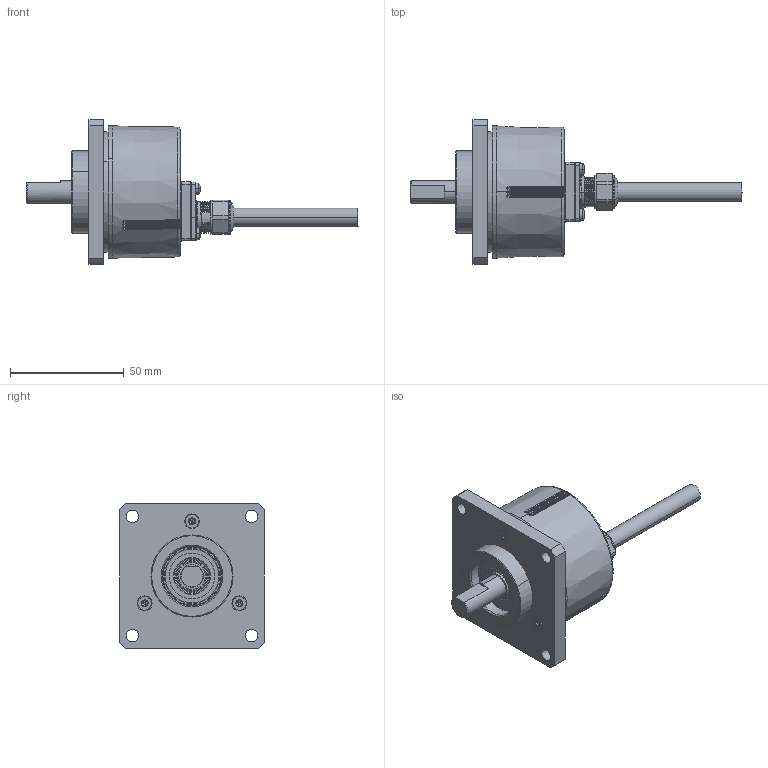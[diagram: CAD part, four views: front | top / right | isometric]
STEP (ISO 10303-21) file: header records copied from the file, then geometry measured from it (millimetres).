
FILE_DESCRIPTION(('STEP AP214'),'1');
FILE_NAME('EIL580-SQ10.5Tx.xxxxx.A.stp','2014-11-20T08:53:43',(' '),(' '),'Spatial InterOp 3D',' ',' ');
FILE_SCHEMA(('automotive_design'));
Length unit declared in the file: millimetre
Products named in the file (2): 1; 2
Bounding box: 145.67 x 63.5 x 63.5 mm (x, y, z)
Volume: 126175.3 mm3; surface area: 27021.9 mm2
Topology: 2 solids, 21 shells, 1076 faces, 2798 edges, 1763 vertices
Faces by surface type: cylinder 332, plane 299, bspline 249, cone 92, torus 68, sphere 36
Entity records: 56223 total; most frequent: CARTESIAN_POINT 23438, ORIENTED_EDGE 5560, DIRECTION 4447, EDGE_CURVE 2780, AXIS2_PLACEMENT_3D 1781, VERTEX_POINT 1763, EDGE_LOOP 1147, STYLED_ITEM 1078
